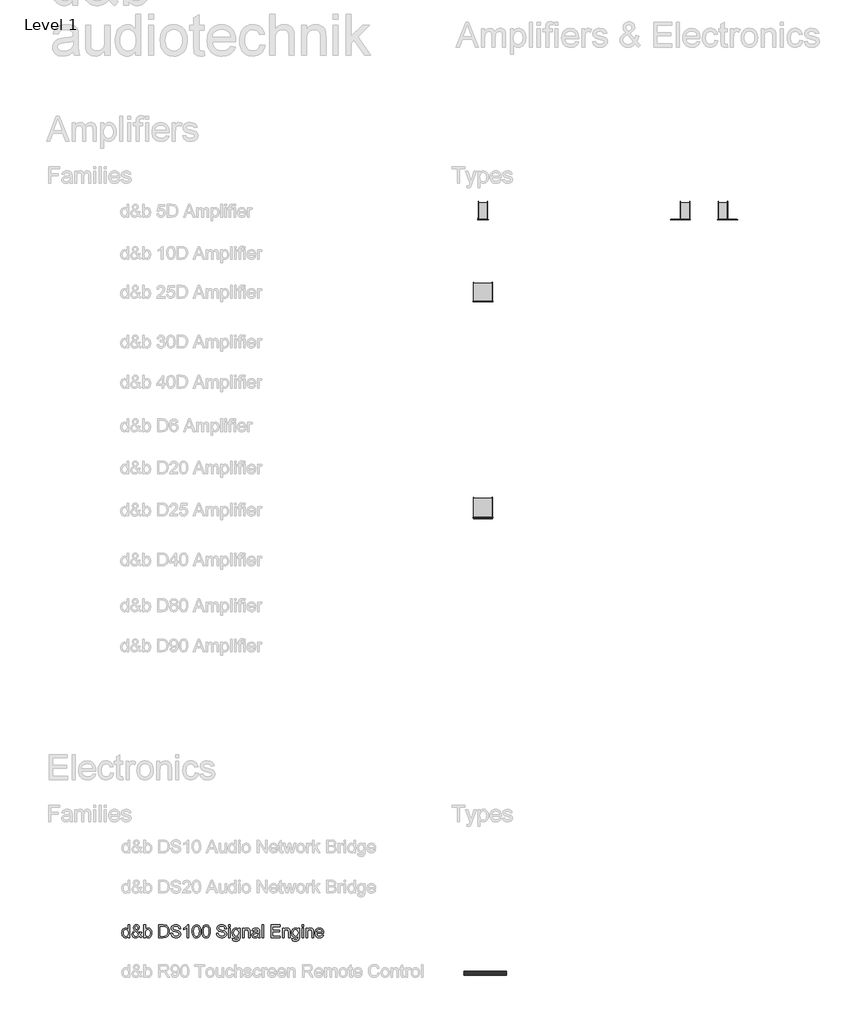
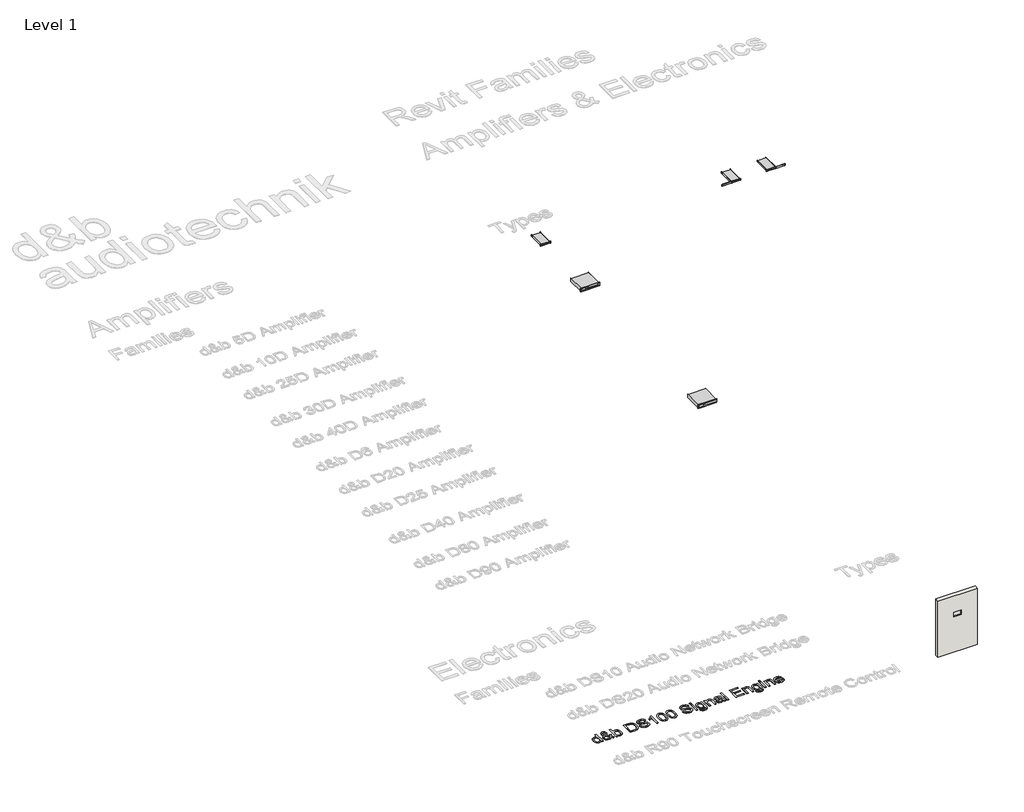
# One storey, part 1 of 14: 6 proxies, 1 wall.
"""IFC4 building model written with IfcOpenShell, lengths in millimetres."""

from ifc_helpers import new_model, si_unit, origin, origin_with_axes, place, context, project, spatial, polyline, outline, extrude, faceted_brep, transform, mapped, element, save
from components import proxy_25d_7f1fb636, proxy_5d_ee4fdd6d, proxy_5d_f9ce884a, proxy_5d_4609c75b, d25_623b4818

model = new_model("IFC4")

# Units and contexts
model_context = context("Model", 3, world=origin())
ifc_project = project(units=[si_unit("LENGTHUNIT", "METRE", prefix="MILLI")], contexts=[model_context])

# Site, building, storey
site = spatial("IfcSite", under=ifc_project)
building = spatial("IfcBuilding", under=site)
storey = spatial("IfcBuildingStorey", under=building, Name="Level 1", Elevation=0.0)

# Proxies
placement = place(None, origin())
proxy_25d_shape = proxy_25d_7f1fb636(model_context)
element("IfcBuildingElementProxy", 1, Name="d&b 25D Amplifier : 25D", ObjectType="d&b 25D Amplifier : 25D", at=placement, inside=storey, context=model_context, shape_type="MappedRepresentation", body=[
    mapped(proxy_25d_shape, transform((-10741.6434304, 14764.0551949, 0.0), x_axis=(1.0, 0.0, 0.0), y_axis=(0.0, 1.0, 0.0), z_axis=(0.0, 0.0, 1.0))),
])
element("IfcBuildingElementProxy", 2, Name="300mm Arial", ObjectType="300mm Arial", at=placement, inside=storey, context=model_context, shape_type="SweptSolid", body=[
    extrude(outline(polyline([(-19163.9314906, -552.2909582), (-19163.9314906, -516.7535575), (-19175.2024752, -534.3613095), (-19188.8554958, -546.9382752), (-19204.8905522, -554.4844546), (-19223.3076446, -556.9998477), (-19247.6614327, -553.357816), (-19269.9550816, -542.4317207), (-19288.827428, -524.9849171), (-19302.9173084, -501.7807603), (-19311.691294, -473.7573493), (-19314.6159558, -441.8527832), (-19311.9212202, -410.3436904), (-19303.8370134, -381.888018), (-19290.3725323, -358.104447), (-19271.5369742, -340.6116582), (-19248.7558816, -329.8511098), (-19223.4547974, -326.2642604), (-19205.0239095, -328.8302373), (-19188.7267371, -336.528168), (-19174.9127682, -348.327983), (-19163.9314906, -363.1996127), (-19163.9314906, -250.9220277), (-19126.2603743, -250.9220277), (-19126.2603743, -552.2909582), (-19163.9314906, -552.2909582)]), holes=[polyline([(-19276.9448395, -441.7056304), (-19272.6958025, -475.7807002), (-19259.9486913, -500.0149267), (-19241.4258329, -514.5002802), (-19219.8495539, -519.3287314), (-19198.2824719, -514.7210094), (-19180.228663, -500.8978435), (-19168.0057837, -477.6017161), (-19163.9314906, -444.57511), (-19168.0793601, -408.4674922), (-19180.5229686, -383.4331224), (-19199.03663, -368.8098131), (-19221.3946582, -363.9353767), (-19243.1916665, -368.616675), (-19261.0523373, -382.6605702), (-19272.971714, -406.784432), (-19276.9448395, -441.7056304)])]), origin_with_axes(), (0.0, 0.0, 1.0), 5.0),
    extrude(outline(polyline([(-18896.9227385, -515.0613003), (-18916.0709963, -533.4094148), (-18936.8747232, -546.5152109), (-18959.3707072, -554.3786885), (-18983.5957366, -556.9998477), (-19005.5766858, -555.0592702), (-19025.166402, -549.2375376), (-19042.3648853, -539.53465), (-19057.1721356, -525.9506073), (-19073.6716431, -499.150404), (-19079.1714789, -469.3703565), (-19074.7476979, -442.9748233), (-19061.4763549, -419.2648287), (-19039.4126323, -398.2587668), (-19008.6117122, -379.9750317), (-19034.9152749, -341.862457), (-19041.5003626, -313.6091197), (-19036.3132265, -288.1700798), (-19020.7518181, -266.2994951), (-18997.3361291, -251.2347274), (-18968.5861512, -246.2131382), (-18941.2341248, -251.0139982), (-18919.3635402, -265.4165784), (-18905.0161424, -286.551399), (-18900.2336765, -311.5489805), (-18903.7745407, -332.5366484), (-18914.3971333, -351.9424236), (-18932.1014543, -369.7663063), (-18956.8875037, -386.0082964), (-18902.367392, -453.9193127), (-18893.0783716, -434.5135374), (-18886.1070078, -412.2014944), (-18848.4358915, -420.3684747), (-18860.0241744, -455.262082), (-18875.070548, -482.3933791), (-18853.6598159, -507.3725666), (-18829.6003334, -528.0107465), (-18857.8536706, -556.9998477), (-18877.0755049, -539.4150884), (-18896.9227385, -515.0613003)]), holes=[polyline([(-18922.1594434, -487.911609), (-18989.4082721, -403.9609377), (-19015.0956324, -420.3500806), (-19030.7949965, -435.5252129), (-19038.8240211, -450.0197635), (-19041.5003626, -464.3671613), (-19037.8399368, -482.1358617), (-19026.8586592, -500.5667497), (-19009.1635352, -514.638236), (-18985.3615701, -519.3287314), (-18968.3194367, -517.1398336), (-18950.7438744, -510.5731399), (-18934.6766283, -500.5299615), (-18922.1594434, -487.911609)]), polyline([(-18975.9437911, -362.2431195), (-18956.2437102, -349.7443287), (-18944.9681271, -338.8826128), (-18939.6706263, -328.3152025), (-18937.9047928, -316.6993285), (-18940.2316464, -303.5383501), (-18947.2122072, -293.0445162), (-18957.6876471, -286.1743199), (-18970.4991375, -283.8842545), (-18983.5865395, -286.1559258), (-18994.3011026, -292.9709398), (-19001.4472104, -303.0601035), (-19003.8292463, -315.1542241), (-19000.5918847, -328.9497989), (-18990.8062237, -344.2904781), (-18975.9437911, -362.2431195)])]), origin_with_axes(), (0.0, 0.0, 1.0), 5.0),
    extrude(outline(polyline([(-18754.2581008, -552.2909582), (-18791.9292171, -552.2909582), (-18791.9292171, -250.9220277), (-18754.2581008, -250.9220277), (-18754.2581008, -362.6845779), (-18741.8696746, -346.750689), (-18727.8809617, -335.3693397), (-18712.2919622, -328.5405302), (-18695.1026759, -326.2642604), (-18675.6969007, -328.3152025), (-18657.3579832, -334.4680288), (-18641.1343873, -344.3364634), (-18628.0745764, -357.5342299), (-18617.8382599, -373.9325699), (-18610.0851469, -393.4027245), (-18605.2015134, -415.1353533), (-18603.5736355, -438.3211161), (-18605.2589949, -465.0753342), (-18610.3150731, -488.6105848), (-18618.7418701, -508.926868), (-18630.5393858, -526.0241837), (-18644.7005433, -539.5760367), (-18660.2182658, -549.2559317), (-18677.092553, -555.0638687), (-18695.3234051, -556.9998477), (-18713.0783099, -554.5028487), (-18728.8190608, -547.0118516), (-18742.5456577, -534.5268563), (-18754.2581008, -517.0478631), (-18754.2581008, -552.2909582)]), holes=[polyline([(-18754.2581008, -440.0869497), (-18751.6829268, -471.5040721), (-18743.9574049, -492.7676514), (-18734.8293329, -504.3881239), (-18724.2205359, -512.6884614), (-18712.1310138, -517.6686639), (-18698.5607667, -519.3287314), (-18676.8189408, -514.4359009), (-18658.2409, -499.7574093), (-18645.4937889, -475.3852271), (-18641.2447519, -441.4113248), (-18645.3190449, -406.9407819), (-18657.5419242, -382.8445112), (-18675.5405509, -368.6626603), (-18696.9420859, -363.9353767), (-18718.6839118, -368.8282072), (-18737.2619526, -383.5066988), (-18750.0090637, -407.4374226), (-18754.2581008, -440.0869497)])]), origin_with_axes(), (0.0, 0.0, 1.0), 5.0),
    extrude(outline(polyline([(-18438.7625017, -552.2909582), (-18438.7625017, -250.9220277), (-18334.7990499, -250.9220277), (-18281.0147022, -255.2630353), (-18256.9920079, -263.6323507), (-18236.72171, -276.8209202), (-18215.8811949, -299.7767567), (-18201.0371564, -328.3243995), (-18192.1528062, -361.9120257), (-18189.1913562, -399.9878122), (-18191.1963131, -432.3338366), (-18197.2111837, -460.798706), (-18206.3714454, -485.0329324), (-18217.8125754, -504.687028), (-18230.9827508, -520.2024512), (-18245.3301486, -532.0206603), (-18261.802065, -540.7854488), (-18281.345796, -547.1406103), (-18329.7958547, -552.2909582), (-18438.7625017, -552.2909582)]), holes=[polyline([(-18401.0913854, -514.6198419), (-18334.4311679, -514.6198419), (-18306.8584123, -513.2586785), (-18285.9443209, -509.1751884), (-18270.1621833, -502.6084947), (-18257.9852893, -493.797721), (-18244.8978873, -477.4913515), (-18235.066241, -456.384122), (-18228.9134146, -430.384062), (-18226.8624725, -399.399201), (-18230.8815833, -358.3435703), (-18242.9389157, -328.0300939), (-18260.7536013, -307.207973), (-18282.0447718, -294.6264088), (-18303.7130213, -290.1014602), (-18335.4612375, -288.593144), (-18401.0913854, -288.593144), (-18401.0913854, -514.6198419)])]), origin_with_axes(), (0.0, 0.0, 1.0), 5.0),
    extrude(outline(polyline([(-18151.5202399, -448.6953883), (-18113.8491236, -448.6953883), (-18109.5265101, -469.6002827), (-18101.7090177, -486.4032929), (-18089.5137296, -499.7390152), (-18072.0577289, -510.2420461), (-18050.7205732, -517.0570601), (-18026.8818199, -519.3287314), (-18005.8941521, -517.6088831), (-17987.5184464, -512.4493381), (-17972.6284227, -504.2823578), (-17962.0978006, -493.5402036), (-17955.8346096, -481.2069597), (-17953.7468793, -468.2667105), (-17955.3103777, -455.6575551), (-17960.0008732, -444.759051), (-17969.5290169, -435.4608336), (-17985.60546, -427.6525382), (-18040.4566655, -413.2683522), (-18076.4631158, -403.7494056), (-18099.5017258, -394.6903115), (-18118.2545105, -382.0167767), (-18131.5442475, -366.6577034), (-18139.4629075, -348.9441854), (-18142.1024608, -329.2073163), (-18138.8375081, -307.1435937), (-18129.04265, -286.5697931), (-18112.9754038, -269.1321865), (-18090.8932871, -256.4770459), (-18064.3873893, -248.7791151), (-18035.0488002, -246.2131382), (-18003.2637958, -248.8986768), (-17975.451917, -256.9552925), (-17952.6064451, -270.2174384), (-17935.7206615, -288.5195676), (-17925.0336895, -310.7212461), (-17920.7846525, -335.6820394), (-17958.4557688, -335.6820394), (-17965.3719503, -313.2044495), (-17979.7929245, -296.9808535), (-18002.3256967, -287.1584043), (-18033.5772722, -283.8842545), (-18065.5646117, -287.1216161), (-18087.5087727, -296.8337007), (-18100.2007015, -311.1259163), (-18104.4313445, -328.1036703), (-18101.4331062, -342.5798268), (-18092.4383914, -354.223292), (-18071.1748121, -364.6343525), (-18030.9285219, -375.2661421), (-17989.3946446, -385.3645029), (-17964.2683043, -394.1752767), (-17942.7931929, -407.8420928), (-17927.8111986, -424.7094823), (-17919.0096219, -444.5935041), (-17916.075763, -467.3102173), (-17919.4510803, -490.5327683), (-17929.5770322, -512.3757617), (-17946.0397515, -531.1745317), (-17968.4253709, -545.2644121), (-17995.3451359, -554.0659888), (-18025.4102919, -556.9998477), (-18062.3180531, -553.8360626), (-18092.6959088, -544.3447071), (-18116.8933471, -528.4889931), (-18135.2598557, -506.2321324), (-18147.0504736, -479.1192294), (-18151.5202399, -448.6953883)])), origin_with_axes(), (0.0, 0.0, 1.0), 5.0),
    extrude(outline(polyline([(-17732.429071, -552.2909582), (-17770.1001873, -552.2909582), (-17770.1001873, -317.4350925), (-17805.7847408, -342.8557383), (-17845.4424199, -361.8752375), (-17845.4424199, -326.2642604), (-17815.8555104, -310.1694231), (-17790.2233324, -291.0211652), (-17770.0174138, -270.6588968), (-17756.7092826, -250.9220277), (-17732.429071, -250.9220277), (-17732.429071, -552.2909582)])), origin_with_axes(), (0.0, 0.0, 1.0), 5.0),
    extrude(outline(polyline([(-17642.9601697, -404.0345141), (-17640.1918577, -355.7959875), (-17631.8869217, -317.3247279), (-17618.1281351, -288.032124), (-17598.9982713, -267.3295647), (-17574.3593747, -255.023912), (-17544.0734894, -250.9220277), (-17520.8601355, -253.3500489), (-17500.0748028, -260.6341124), (-17482.6923785, -272.4891097), (-17469.68775, -288.6299322), (-17459.8653007, -308.9186243), (-17452.0294142, -333.2172301), (-17446.8974604, -364.0733324), (-17445.1868091, -404.0345141), (-17447.92753, -451.9971293), (-17456.1496926, -490.3764184), (-17469.8257058, -519.6966134), (-17488.9279784, -540.4819461), (-17513.6220573, -552.8703723), (-17544.0734894, -556.9998477), (-17564.822034, -555.206423), (-17583.2161337, -549.8261488), (-17599.2557887, -540.8590252), (-17612.9409989, -528.3050521), (-17626.0743862, -505.6113315), (-17635.455377, -477.3350017), (-17641.0839716, -443.4760625), (-17642.9601697, -404.0345141)]), holes=[polyline([(-17605.2890534, -403.9609377), (-17600.8744695, -463.2175301), (-17595.3562396, -483.4855288), (-17587.6307177, -497.5133291), (-17567.9122427, -513.8748808), (-17544.0734894, -519.3287314), (-17520.2347361, -513.8564867), (-17500.5162612, -497.4397527), (-17492.7907393, -483.3889598), (-17487.2725094, -463.1255596), (-17482.8579254, -403.9609377), (-17487.1253566, -346.0379176), (-17492.4596455, -325.8365975), (-17499.92765, -311.4754041), (-17519.6093368, -294.3137091), (-17544.5149478, -288.593144), (-17568.0961837, -293.6331274), (-17587.0421065, -308.7530774), (-17595.0251458, -324.3880622), (-17600.7273167, -345.4677005), (-17605.2890534, -403.9609377)])]), origin_with_axes(), (0.0, 0.0, 1.0), 5.0),
    extrude(outline(polyline([(-17412.2245824, -404.0345141), (-17409.4562704, -355.7959875), (-17401.1513343, -317.3247279), (-17387.3925477, -288.032124), (-17368.2626839, -267.3295647), (-17343.6237873, -255.023912), (-17313.3379021, -250.9220277), (-17290.1245482, -253.3500489), (-17269.3392154, -260.6341124), (-17251.9567912, -272.4891097), (-17238.9521626, -288.6299322), (-17229.1297134, -308.9186243), (-17221.2938269, -333.2172301), (-17216.161873, -364.0733324), (-17214.4512218, -404.0345141), (-17217.1919426, -451.9971293), (-17225.4141052, -490.3764184), (-17239.0901184, -519.6966134), (-17258.192391, -540.4819461), (-17282.8864699, -552.8703723), (-17313.3379021, -556.9998477), (-17334.0864466, -555.206423), (-17352.4805463, -549.8261488), (-17368.5202013, -540.8590252), (-17382.2054116, -528.3050521), (-17395.3387988, -505.6113315), (-17404.7197897, -477.3350017), (-17410.3483842, -443.4760625), (-17412.2245824, -404.0345141)]), holes=[polyline([(-17374.5534661, -403.9609377), (-17370.1388821, -463.2175301), (-17364.6206522, -483.4855288), (-17356.8951303, -497.5133291), (-17337.1766553, -513.8748808), (-17313.3379021, -519.3287314), (-17289.4991488, -513.8564867), (-17269.7806738, -497.4397527), (-17262.0551519, -483.3889598), (-17256.536922, -463.1255596), (-17252.1223381, -403.9609377), (-17256.3897692, -346.0379176), (-17261.7240581, -325.8365975), (-17269.1920626, -311.4754041), (-17288.8737494, -294.3137091), (-17313.7793605, -288.593144), (-17337.3605963, -293.6331274), (-17356.3065191, -308.7530774), (-17364.2895584, -324.3880622), (-17369.9917293, -345.4677005), (-17374.5534661, -403.9609377)])]), origin_with_axes(), (0.0, 0.0, 1.0), 5.0),
    extrude(outline(polyline([(-17063.7667565, -448.6953883), (-17026.0956402, -448.6953883), (-17021.7730268, -469.6002827), (-17013.9555344, -486.4032929), (-17001.7602462, -499.7390152), (-16984.3042456, -510.2420461), (-16962.9670899, -517.0570601), (-16939.1283366, -519.3287314), (-16918.1406687, -517.6088831), (-16899.7649631, -512.4493381), (-16884.8749393, -504.2823578), (-16874.3443172, -493.5402036), (-16868.0811262, -481.2069597), (-16865.9933959, -468.2667105), (-16867.5568944, -455.6575551), (-16872.2473898, -444.759051), (-16881.7755335, -435.4608336), (-16897.8519767, -427.6525382), (-16952.7031822, -413.2683522), (-16988.7096325, -403.7494056), (-17011.7482424, -394.6903115), (-17030.5010271, -382.0167767), (-17043.7907642, -366.6577034), (-17051.7094241, -348.9441854), (-17054.3489775, -329.2073163), (-17051.0840247, -307.1435937), (-17041.2891666, -286.5697931), (-17025.2219205, -269.1321865), (-17003.1398037, -256.4770459), (-16976.633906, -248.7791151), (-16947.2953169, -246.2131382), (-16915.5103125, -248.8986768), (-16887.6984336, -256.9552925), (-16864.8529617, -270.2174384), (-16847.9671782, -288.5195676), (-16837.2802062, -310.7212461), (-16833.0311692, -335.6820394), (-16870.7022855, -335.6820394), (-16877.618467, -313.2044495), (-16892.0394412, -296.9808535), (-16914.5722134, -287.1584043), (-16945.8237889, -283.8842545), (-16977.8111284, -287.1216161), (-16999.7552894, -296.8337007), (-17012.4472182, -311.1259163), (-17016.6778612, -328.1036703), (-17013.6796229, -342.5798268), (-17004.6849081, -354.223292), (-16983.4213288, -364.6343525), (-16943.1750385, -375.2661421), (-16901.6411613, -385.3645029), (-16876.514821, -394.1752767), (-16855.0397095, -407.8420928), (-16840.0577153, -424.7094823), (-16831.2561385, -444.5935041), (-16828.3222796, -467.3102173), (-16831.6975969, -490.5327683), (-16841.8235488, -512.3757617), (-16858.2862681, -531.1745317), (-16880.6718875, -545.2644121), (-16907.5916525, -554.0659888), (-16937.6568086, -556.9998477), (-16974.5645698, -553.8360626), (-17004.9424255, -544.3447071), (-17029.1398637, -528.4889931), (-17047.5063723, -506.2321324), (-17059.2969903, -479.1192294), (-17063.7667565, -448.6953883)])), origin_with_axes(), (0.0, 0.0, 1.0), 5.0),
    extrude(outline(polyline([(-16776.5244947, -288.593144), (-16776.5244947, -250.9220277), (-16738.8533784, -250.9220277), (-16738.8533784, -288.593144), (-16776.5244947, -288.593144)])), origin_with_axes(), (0.0, 0.0, 1.0), 5.0),
    extrude(outline(polyline([(-16776.5244947, -552.2909582), (-16776.5244947, -330.9731499), (-16738.8533784, -330.9731499), (-16738.8533784, -552.2909582), (-16776.5244947, -552.2909582)])), origin_with_axes(), (0.0, 0.0, 1.0), 5.0),
    extrude(outline(polyline([(-16691.764483, -571.1265163), (-16654.0933667, -575.8354059), (-16649.9363002, -587.6076297), (-16641.8796845, -595.7010336), (-16626.0423646, -601.9918157), (-16605.3122141, -604.0887431), (-16583.2025062, -601.7159042), (-16566.758181, -594.5973876), (-16555.3538392, -583.1930458), (-16548.3640813, -567.9627312), (-16545.7889073, -524.037621), (-16558.3244863, -536.398456), (-16572.3131992, -545.2276239), (-16587.7550459, -550.5251246), (-16604.6500266, -552.2909582), (-16625.3043013, -550.2354175), (-16643.4891682, -544.0687956), (-16659.2046272, -533.7910924), (-16672.4506783, -519.4023078), (-16682.960607, -502.1394452), (-16690.467699, -483.2395077), (-16694.9719542, -462.7024953), (-16696.4733725, -440.5284081), (-16693.7786369, -410.1137641), (-16685.6944301, -382.1455354), (-16672.5058606, -358.4447379), (-16654.4980369, -340.8323874), (-16632.2871614, -329.9062921), (-16606.4894365, -326.2642604), (-16588.8724875, -328.3243995), (-16572.8834163, -334.504817), (-16558.5222229, -344.8055129), (-16545.7889073, -359.2264871), (-16545.7889073, -330.9731499), (-16508.117791, -330.9731499), (-16508.117791, -522.0510582), (-16510.692965, -566.1693065), (-16518.4184869, -595.222787), (-16531.7266181, -614.4906065), (-16551.0496199, -629.2518716), (-16575.964428, -638.6328625), (-16606.0479781, -641.7598594), (-16641.0979352, -637.3544725), (-16668.6982819, -624.1383118), (-16679.0932475, -614.2169943), (-16686.4026029, -602.0745892), (-16690.6263481, -587.7110965), (-16691.764483, -571.1265163)]), holes=[polyline([(-16658.8022562, -437.9532341), (-16654.7831454, -472.5065505), (-16642.7258131, -496.2625303), (-16624.5984277, -510.030514), (-16602.3691582, -514.6198419), (-16580.3054355, -510.0581051), (-16562.0860797, -496.3728949), (-16549.8632004, -472.9204177), (-16545.7889073, -439.0568801), (-16549.9827621, -406.398156), (-16562.5643263, -382.8812994), (-16581.0503966, -368.6718573), (-16602.9577694, -363.9353767), (-16624.469669, -368.598281), (-16642.5050839, -382.5869938), (-16654.7279631, -405.7543625), (-16658.8022562, -437.9532341)])]), origin_with_axes(), (0.0, 0.0, 1.0), 5.0),
    extrude(outline(polyline([(-16451.6111166, -552.2909582), (-16451.6111166, -330.9731499), (-16413.9400003, -330.9731499), (-16413.9400003, -361.8752375), (-16400.8525983, -346.295435), (-16385.13484, -335.1670046), (-16366.7867255, -328.4899464), (-16345.8082547, -326.2642604), (-16327.239411, -328.0576851), (-16310.2340658, -333.4379593), (-16296.0522149, -341.7336983), (-16285.9538541, -352.2735174), (-16274.6598769, -379.9750317), (-16272.6733141, -416.3953492), (-16272.6733141, -552.2909582), (-16310.3444304, -552.2909582), (-16310.3444304, -421.4721207), (-16314.685438, -388.1420119), (-16320.6911115, -378.2183951), (-16330.0261172, -370.5204644), (-16341.991479, -365.5816486), (-16355.8882214, -363.9353767), (-16377.9519441, -367.6325907), (-16396.7599111, -378.7242329), (-16404.2762001, -387.7787285), (-16409.644978, -400.1533591), (-16413.9400003, -434.8630253), (-16413.9400003, -552.2909582), (-16451.6111166, -552.2909582)])), origin_with_axes(), (0.0, 0.0, 1.0), 5.0),
    extrude(outline(polyline([(-16079.608843, -524.037621), (-16097.6074696, -539.4702707), (-16116.1395252, -549.5686314), (-16135.6280739, -555.1420437), (-16156.49618, -556.9998477), (-16187.9776818, -552.5300815), (-16211.2002327, -539.1207828), (-16225.5200394, -518.7585143), (-16230.2933083, -493.429839), (-16228.4906865, -477.8132483), (-16223.0828212, -463.6313974), (-16214.7410969, -451.4912915), (-16204.1368984, -441.999936), (-16177.7597593, -429.639101), (-16145.1654146, -423.9737183), (-16106.6481697, -418.01403), (-16079.8295722, -411.024272), (-16079.608843, -402.6365626), (-16082.2024111, -385.8243554), (-16089.9831153, -374.8246837), (-16107.3839337, -366.6577034), (-16131.6273572, -363.9353767), (-16154.0681589, -365.7471955), (-16169.7399319, -371.182652), (-16180.4269038, -381.2350275), (-16187.9133024, -396.8976034), (-16225.5844187, -392.1887139), (-16219.0453163, -371.5873222), (-16209.2872463, -355.4005144), (-16195.399701, -343.0212852), (-16176.4721724, -333.8426295), (-16153.3231978, -328.1588526), (-16126.7713148, -326.2642604), (-16101.3046837, -327.9381234), (-16081.1171592, -332.9597127), (-16065.8960417, -340.5104906), (-16055.3286314, -349.7719198), (-16048.3204793, -361.2222469), (-16043.7771367, -375.3397185), (-16041.9377267, -408.3019453), (-16041.9377267, -455.1701115), (-16040.0247404, -520.6163184), (-16032.5199477, -552.2909582), (-16070.191064, -552.2909582), (-16079.608843, -524.037621)]), holes=[polyline([(-16079.608843, -448.6953883), (-16140.3829486, -460.246883), (-16172.7933524, -466.3537241), (-16187.471844, -476.286538), (-16192.622192, -490.7810886), (-16189.8170917, -501.9830954), (-16181.4017911, -511.1617511), (-16167.560231, -517.2869864), (-16148.4763525, -519.3287314), (-16128.2428428, -517.0754542), (-16110.3637778, -510.3156225), (-16095.8692272, -500.3552175), (-16085.7892606, -488.5002202), (-16081.3194943, -476.286538), (-16079.8295722, -459.3639662), (-16079.608843, -448.6953883)])]), origin_with_axes(), (0.0, 0.0, 1.0), 5.0),
    extrude(outline(polyline([(-15990.1399418, -552.2909582), (-15990.1399418, -250.9220277), (-15952.4688255, -250.9220277), (-15952.4688255, -552.2909582), (-15990.1399418, -552.2909582)])), origin_with_axes(), (0.0, 0.0, 1.0), 5.0),
    extrude(outline(polyline([(-15773.531023, -552.2909582), (-15773.531023, -250.9220277), (-15556.9221043, -250.9220277), (-15556.9221043, -288.593144), (-15735.8599067, -288.593144), (-15735.8599067, -378.0620453), (-15566.3398834, -378.0620453), (-15566.3398834, -415.7331616), (-15735.8599067, -415.7331616), (-15735.8599067, -514.6198419), (-15552.2132148, -514.6198419), (-15552.2132148, -552.2909582), (-15773.531023, -552.2909582)])), origin_with_axes(), (0.0, 0.0, 1.0), 5.0),
    extrude(outline(polyline([(-15500.4154298, -552.2909582), (-15500.4154298, -330.9731499), (-15462.7443135, -330.9731499), (-15462.7443135, -361.8752375), (-15449.6569115, -346.295435), (-15433.9391533, -335.1670046), (-15415.5910388, -328.4899464), (-15394.612568, -326.2642604), (-15376.0437243, -328.0576851), (-15359.0383791, -333.4379593), (-15344.8565282, -341.7336983), (-15334.7581674, -352.2735174), (-15323.4641901, -379.9750317), (-15321.4776274, -416.3953492), (-15321.4776274, -552.2909582), (-15359.1487437, -552.2909582), (-15359.1487437, -421.4721207), (-15363.4897512, -388.1420119), (-15369.4954248, -378.2183951), (-15378.8304304, -370.5204644), (-15390.7957923, -365.5816486), (-15404.6925347, -363.9353767), (-15426.7562573, -367.6325907), (-15445.5642243, -378.7242329), (-15453.0805134, -387.7787285), (-15458.4492912, -400.1533591), (-15462.7443135, -434.8630253), (-15462.7443135, -552.2909582), (-15500.4154298, -552.2909582)])), origin_with_axes(), (0.0, 0.0, 1.0), 5.0),
    extrude(outline(polyline([(-15279.0976215, -571.1265163), (-15241.4265052, -575.8354059), (-15237.2694387, -587.6076297), (-15229.212823, -595.7010336), (-15213.3755031, -601.9918157), (-15192.6453527, -604.0887431), (-15170.5356448, -601.7159042), (-15154.0913196, -594.5973876), (-15142.6869777, -583.1930458), (-15135.6972198, -567.9627312), (-15133.1220458, -524.037621), (-15145.6576248, -536.398456), (-15159.6463377, -545.2276239), (-15175.0881844, -550.5251246), (-15191.9831651, -552.2909582), (-15212.6374398, -550.2354175), (-15230.8223067, -544.0687956), (-15246.5377657, -533.7910924), (-15259.7838168, -519.4023078), (-15270.2937455, -502.1394452), (-15277.8008375, -483.2395077), (-15282.3050927, -462.7024953), (-15283.8065111, -440.5284081), (-15281.1117755, -410.1137641), (-15273.0275686, -382.1455354), (-15259.8389991, -358.4447379), (-15241.8311754, -340.8323874), (-15219.6203, -329.9062921), (-15193.822575, -326.2642604), (-15176.205626, -328.3243995), (-15160.2165548, -334.504817), (-15145.8553614, -344.8055129), (-15133.1220458, -359.2264871), (-15133.1220458, -330.9731499), (-15095.4509295, -330.9731499), (-15095.4509295, -522.0510582), (-15098.0261035, -566.1693065), (-15105.7516254, -595.222787), (-15119.0597566, -614.4906065), (-15138.3827584, -629.2518716), (-15163.2975665, -638.6328625), (-15193.3811167, -641.7598594), (-15228.4310737, -637.3544725), (-15256.0314204, -624.1383118), (-15266.4263861, -614.2169943), (-15273.7357415, -602.0745892), (-15277.9594866, -587.7110965), (-15279.0976215, -571.1265163)]), holes=[polyline([(-15246.1353948, -437.9532341), (-15242.116284, -472.5065505), (-15230.0589516, -496.2625303), (-15211.9315663, -510.030514), (-15189.7022967, -514.6198419), (-15167.638574, -510.0581051), (-15149.4192182, -496.3728949), (-15137.1963389, -472.9204177), (-15133.1220458, -439.0568801), (-15137.3159006, -406.398156), (-15149.8974648, -382.8812994), (-15168.3835351, -368.6718573), (-15190.2909079, -363.9353767), (-15211.8028076, -368.598281), (-15229.8382224, -382.5869938), (-15242.0611017, -405.7543625), (-15246.1353948, -437.9532341)])]), origin_with_axes(), (0.0, 0.0, 1.0), 5.0),
    extrude(outline(polyline([(-15038.9442551, -552.2909582), (-15038.9442551, -330.9731499), (-15001.2731388, -330.9731499), (-15001.2731388, -552.2909582), (-15038.9442551, -552.2909582)])), origin_with_axes(), (0.0, 0.0, 1.0), 5.0),
    extrude(outline(polyline([(-15038.9442551, -288.593144), (-15038.9442551, -250.9220277), (-15001.2731388, -250.9220277), (-15001.2731388, -288.593144), (-15038.9442551, -288.593144)])), origin_with_axes(), (0.0, 0.0, 1.0), 5.0),
    extrude(outline(polyline([(-14944.7664643, -552.2909582), (-14944.7664643, -330.9731499), (-14907.095348, -330.9731499), (-14907.095348, -361.8752375), (-14894.007946, -346.295435), (-14878.2901878, -335.1670046), (-14859.9420733, -328.4899464), (-14838.9636025, -326.2642604), (-14820.3947588, -328.0576851), (-14803.3894136, -333.4379593), (-14789.2075627, -341.7336983), (-14779.1092019, -352.2735174), (-14767.8152246, -379.9750317), (-14765.8286619, -416.3953492), (-14765.8286619, -552.2909582), (-14803.4997782, -552.2909582), (-14803.4997782, -421.4721207), (-14807.8407857, -388.1420119), (-14813.8464593, -378.2183951), (-14823.1814649, -370.5204644), (-14835.1468268, -365.5816486), (-14849.0435692, -363.9353767), (-14871.1072918, -367.6325907), (-14889.9152588, -378.7242329), (-14897.4315478, -387.7787285), (-14902.8003257, -400.1533591), (-14907.095348, -434.8630253), (-14907.095348, -552.2909582), (-14944.7664643, -552.2909582)])), origin_with_axes(), (0.0, 0.0, 1.0), 5.0),
    extrude(outline(polyline([(-14559.0789806, -486.3665047), (-14522.1436283, -491.0753942), (-14535.4517594, -518.9056671), (-14556.6877476, -539.709394), (-14585.3733462, -552.6772343), (-14621.0303086, -556.9998477), (-14644.4046108, -555.1351459), (-14665.2313303, -549.5410403), (-14683.5104669, -540.217531), (-14699.2420207, -527.1646179), (-14711.8925628, -510.7455846), (-14720.9286643, -491.3237145), (-14726.3503253, -468.8990077), (-14728.1575456, -443.471464), (-14726.3319312, -417.1816969), (-14720.855088, -394.0097298), (-14711.7270159, -373.9555625), (-14698.9477151, -357.0191952), (-14683.257548, -343.5639112), (-14665.3968772, -333.9529941), (-14645.3657025, -328.1864438), (-14623.1640241, -326.2642604), (-14601.6774164, -328.1818453), (-14582.2463492, -333.9346), (-14564.8708227, -343.5225245), (-14549.5508369, -356.9456188), (-14537.0451483, -373.8451979), (-14528.1125136, -393.862577), (-14522.7529328, -416.9977559), (-14520.9664059, -443.2507348), (-14521.1871351, -453.4042779), (-14690.4864292, -453.4042779), (-14683.9657209, -481.6024328), (-14668.8181797, -502.3325832), (-14646.9567922, -515.0796944), (-14620.2945446, -519.3287314), (-14600.2449758, -517.3605627), (-14583.3591923, -511.4560567), (-14569.6371938, -501.2473314), (-14559.0789806, -486.3665047)]), holes=[polyline([(-14690.4864292, -415.7331616), (-14558.6375222, -415.7331616), (-14563.7326878, -395.8307456), (-14573.720684, -381.5937124), (-14595.6832391, -368.3499606), (-14623.3111769, -363.9353767), (-14648.7042316, -367.4578468), (-14669.7010965, -378.0252571), (-14684.2968147, -394.4971734), (-14690.4864292, -415.7331616)])]), origin_with_axes(), (0.0, 0.0, 1.0), 5.0),
])
proxy_5d_shape = proxy_5d_ee4fdd6d(model_context)
element("IfcBuildingElementProxy", 3, Name="d&b 5D Amplifier : 5D", ObjectType="d&b 5D Amplifier : 5D", at=placement, inside=storey, context=model_context, shape_type="MappedRepresentation", body=[
    mapped(proxy_5d_shape, transform((-10630.3127264, 16708.4018443, 0.0), x_axis=(1.0, 0.0, 0.0), y_axis=(0.0, 1.0, 0.0), z_axis=(0.0, 0.0, 1.0))),
])
proxy_5d_2_shape = proxy_5d_f9ce884a(model_context)
element("IfcBuildingElementProxy", 4, Name="d&b 5D Amplifier : 5D", ObjectType="d&b 5D Amplifier : 5D", at=placement, inside=storey, context=model_context, shape_type="MappedRepresentation", body=[
    mapped(proxy_5d_2_shape, transform((-5830.3127264, 16708.4018443, 0.0), x_axis=(1.0, 0.0, 0.0), y_axis=(0.0, 1.0, 0.0), z_axis=(0.0, 0.0, 1.0))),
])
proxy_5d_3_shape = proxy_5d_4609c75b(model_context)
element("IfcBuildingElementProxy", 5, Name="d&b 5D Amplifier : 5D", ObjectType="d&b 5D Amplifier : 5D", at=placement, inside=storey, context=model_context, shape_type="MappedRepresentation", body=[
    mapped(proxy_5d_3_shape, transform((-4930.3127264, 16708.4018443, 0.0), x_axis=(1.0, 0.0, 0.0), y_axis=(0.0, 1.0, 0.0), z_axis=(0.0, 0.0, 1.0))),
])
d25_shape = d25_623b4818(model_context)
element("IfcBuildingElementProxy", 6, Name="d&b D25 Amplifier : D25", ObjectType="d&b D25 Amplifier : D25", at=placement, inside=storey, context=model_context, shape_type="MappedRepresentation", body=[
    mapped(d25_shape, transform((-10741.6434304, 9632.6490655, 0.0), x_axis=(1.0, 0.0, 0.0), y_axis=(0.0, 1.0, 0.0), z_axis=(0.0, 0.0, 1.0))),
])

# Wall
element("IfcWall", 7, ObjectType="Default Wall", at=placement, inside=storey, context=model_context, shape_type="Brep", body=[
    faceted_brep([(-11188.5606734, -1446.1646168, 0.0), (-10188.5606734, -1446.1646168, 0.0), (-10188.5606734, -1446.1646168, 1500.0), (-11188.5606734, -1446.1646168, 1500.0), (-10783.0606734, -1446.1646168, 1060.5), (-10594.0606734, -1446.1646168, 1060.5), (-10594.0606734, -1446.1646168, 939.5), (-10783.0606734, -1446.1646168, 939.5), (-10188.5606734, -1346.1646168, 0.0), (-11188.5606734, -1346.1646168, 0.0), (-11188.5606734, -1346.1646168, 1500.0), (-10188.5606734, -1346.1646168, 1500.0), (-10594.0606734, -1406.1646168, 1060.5), (-10783.0606734, -1406.1646168, 1060.5), (-10783.0606734, -1406.1646168, 939.5), (-10594.0606734, -1406.1646168, 939.5)], [[[0, 1, 2, 3], [4, 5, 6, 7]], [[8, 9, 10, 11]], [[1, 0, 9, 8]], [[2, 1, 8, 11]], [[3, 2, 11, 10]], [[0, 3, 10, 9]], [[12, 13, 14, 15]], [[13, 12, 5, 4]], [[14, 13, 4, 7]], [[15, 14, 7, 6]], [[12, 15, 6, 5]]]),
])

save(model, "model.ifc")
